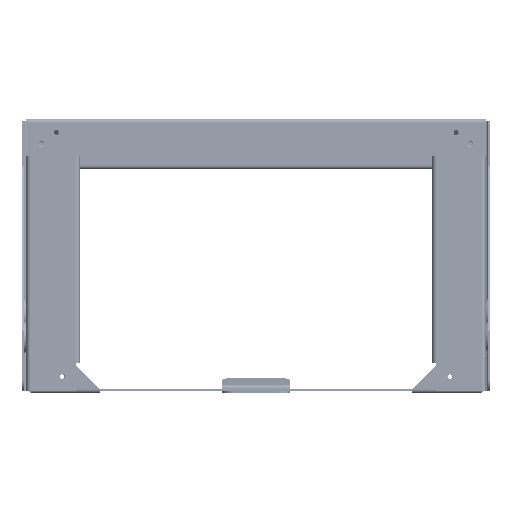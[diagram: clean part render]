
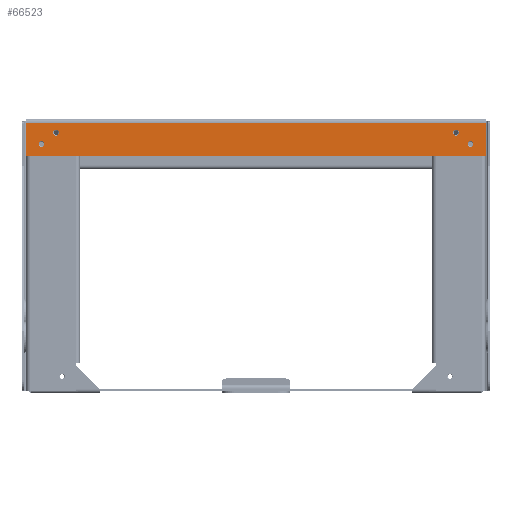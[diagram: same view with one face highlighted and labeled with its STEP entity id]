
A CAD part, front view. The second image highlights one B-rep face of the part: STEP entity #66523.
In plain terms, the highlighted planar face has unit normal (0, -1, 0).
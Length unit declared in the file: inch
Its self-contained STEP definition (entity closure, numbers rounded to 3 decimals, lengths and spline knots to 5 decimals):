
#3661 = PLANE ( 'NONE',  #29699 ) ;
#3682 = CARTESIAN_POINT ( 'NONE',  ( -10.222, -1.037, 1.553 ) ) ;
#3686 = DIRECTION ( 'NONE',  ( 0., 1., 0. ) ) ;
#3687 = DIRECTION ( 'NONE',  ( 0., 0., 1. ) ) ;
#5896 = EDGE_CURVE ( 'NONE', #45047, #45205, #28272, .T. ) ;
#5903 = EDGE_CURVE ( 'NONE', #45200, #45305, #28274, .T. ) ;
#5931 = EDGE_CURVE ( 'NONE', #45031, #45078, #28279, .T. ) ;
#5947 = EDGE_CURVE ( 'NONE', #45249, #45018, #28285, .T. ) ;
#11829 = LINE ( 'NONE', #40507, #11842 ) ;
#11836 = CIRCLE ( 'NONE', #19616, 0.1325 ) ;
#11842 = VECTOR ( 'NONE', #40504, 39.37008 ) ;
#11922 = VECTOR ( 'NONE', #40326, 39.37008 ) ;
#11926 = LINE ( 'NONE', #40342, #11922 ) ;
#11946 = VECTOR ( 'NONE', #40269, 39.37008 ) ;
#11950 = LINE ( 'NONE', #40270, #11946 ) ;
#11957 = CIRCLE ( 'NONE', #19698, 0.1325 ) ;
#11971 = LINE ( 'NONE', #40240, #11972 ) ;
#11972 = VECTOR ( 'NONE', #40237, 39.37008 ) ;
#11977 = CIRCLE ( 'NONE', #19706, 0.1325 ) ;
#11992 = CIRCLE ( 'NONE', #19709, 0.1325 ) ;
#13819 = EDGE_CURVE ( 'NONE', #45018, #45249, #11836, .T. ) ;
#13829 = EDGE_CURVE ( 'NONE', #45283, #45286, #11829, .T. ) ;
#14058 = EDGE_CURVE ( 'NONE', #45301, #45247, #11926, .T. ) ;
#14131 = EDGE_CURVE ( 'NONE', #45205, #45047, #11957, .T. ) ;
#14147 = EDGE_CURVE ( 'NONE', #45247, #45283, #11950, .T. ) ;
#14182 = EDGE_CURVE ( 'NONE', #45301, #45286, #11971, .T. ) ;
#14193 = EDGE_CURVE ( 'NONE', #45305, #45200, #11977, .T. ) ;
#14236 = EDGE_CURVE ( 'NONE', #45078, #45031, #11992, .T. ) ;
#19198 = AXIS2_PLACEMENT_3D ( 'NONE', #32434, #32508, #32507 ) ;
#19208 = AXIS2_PLACEMENT_3D ( 'NONE', #32506, #32505, #32504 ) ;
#19210 = AXIS2_PLACEMENT_3D ( 'NONE', #32996, #32985, #32988 ) ;
#19212 = AXIS2_PLACEMENT_3D ( 'NONE', #32432, #32497, #32488 ) ;
#19616 = AXIS2_PLACEMENT_3D ( 'NONE', #40520, #40518, #40517 ) ;
#19698 = AXIS2_PLACEMENT_3D ( 'NONE', #40275, #40273, #40272 ) ;
#19706 = AXIS2_PLACEMENT_3D ( 'NONE', #40257, #40234, #40233 ) ;
#19709 = AXIS2_PLACEMENT_3D ( 'NONE', #40208, #40204, #40203 ) ;
#28272 = CIRCLE ( 'NONE', #19198, 0.1325 ) ;
#28274 = CIRCLE ( 'NONE', #19208, 0.1325 ) ;
#28279 = CIRCLE ( 'NONE', #19212, 0.1325 ) ;
#28285 = CIRCLE ( 'NONE', #19210, 0.1325 ) ;
#29699 = AXIS2_PLACEMENT_3D ( 'NONE', #3682, #3686, #3687 ) ;
#30991 = FACE_BOUND ( 'NONE', #58972, .T. ) ;
#30997 = FACE_OUTER_BOUND ( 'NONE', #58966, .T. ) ;
#31009 = FACE_BOUND ( 'NONE', #58969, .T. ) ;
#31016 = FACE_BOUND ( 'NONE', #58968, .T. ) ;
#31021 = FACE_BOUND ( 'NONE', #58967, .T. ) ;
#32432 = CARTESIAN_POINT ( 'NONE',  ( -8.897, -1.037, 0.533 ) ) ;
#32434 = CARTESIAN_POINT ( 'NONE',  ( 9.547, -1.037, 1.033 ) ) ;
#32488 = DIRECTION ( 'NONE',  ( 0., 0., -1. ) ) ;
#32497 = DIRECTION ( 'NONE',  ( 0., -1., 0. ) ) ;
#32504 = DIRECTION ( 'NONE',  ( 0., 0., 1. ) ) ;
#32505 = DIRECTION ( 'NONE',  ( 0., -1., 0. ) ) ;
#32506 = CARTESIAN_POINT ( 'NONE',  ( 8.897, -1.037, 0.533 ) ) ;
#32507 = DIRECTION ( 'NONE',  ( 0., 0., 1. ) ) ;
#32508 = DIRECTION ( 'NONE',  ( 0., -1., 0. ) ) ;
#32985 = DIRECTION ( 'NONE',  ( 0., -1., 0. ) ) ;
#32988 = DIRECTION ( 'NONE',  ( 0., 0., -1. ) ) ;
#32996 = CARTESIAN_POINT ( 'NONE',  ( -9.547, -1.037, 1.033 ) ) ;
#34190 = ORIENTED_EDGE ( 'NONE', *, *, #5896, .F. ) ;
#34193 = ORIENTED_EDGE ( 'NONE', *, *, #5903, .F. ) ;
#34195 = ORIENTED_EDGE ( 'NONE', *, *, #5931, .F. ) ;
#34197 = ORIENTED_EDGE ( 'NONE', *, *, #5947, .F. ) ;
#34199 = ORIENTED_EDGE ( 'NONE', *, *, #14058, .T. ) ;
#34201 = ORIENTED_EDGE ( 'NONE', *, *, #13829, .T. ) ;
#34643 = ORIENTED_EDGE ( 'NONE', *, *, #14147, .T. ) ;
#34647 = ORIENTED_EDGE ( 'NONE', *, *, #14182, .F. ) ;
#34652 = ORIENTED_EDGE ( 'NONE', *, *, #13819, .F. ) ;
#34656 = ORIENTED_EDGE ( 'NONE', *, *, #14236, .F. ) ;
#34660 = ORIENTED_EDGE ( 'NONE', *, *, #14193, .F. ) ;
#34665 = ORIENTED_EDGE ( 'NONE', *, *, #14131, .F. ) ;
#40203 = DIRECTION ( 'NONE',  ( 0., 0., -1. ) ) ;
#40204 = DIRECTION ( 'NONE',  ( 0., -1., 0. ) ) ;
#40208 = CARTESIAN_POINT ( 'NONE',  ( -8.897, -1.037, 0.533 ) ) ;
#40233 = DIRECTION ( 'NONE',  ( 0., 0., 1. ) ) ;
#40234 = DIRECTION ( 'NONE',  ( 0., -1., 0. ) ) ;
#40237 = DIRECTION ( 'NONE',  ( -1., 0., 0. ) ) ;
#40240 = CARTESIAN_POINT ( 'NONE',  ( -10.222, -1.037, 0.08 ) ) ;
#40257 = CARTESIAN_POINT ( 'NONE',  ( 8.897, -1.037, 0.533 ) ) ;
#40269 = DIRECTION ( 'NONE',  ( -1., 0., 0. ) ) ;
#40270 = CARTESIAN_POINT ( 'NONE',  ( -10.222, -1.037, 1.553 ) ) ;
#40272 = DIRECTION ( 'NONE',  ( 0., 0., 1. ) ) ;
#40273 = DIRECTION ( 'NONE',  ( 0., -1., 0. ) ) ;
#40275 = CARTESIAN_POINT ( 'NONE',  ( 9.547, -1.037, 1.033 ) ) ;
#40326 = DIRECTION ( 'NONE',  ( 0., 0., 1. ) ) ;
#40342 = CARTESIAN_POINT ( 'NONE',  ( 10.222, -1.037, 1.553 ) ) ;
#40504 = DIRECTION ( 'NONE',  ( 0., 0., -1. ) ) ;
#40507 = CARTESIAN_POINT ( 'NONE',  ( -10.222, -1.037, 1.553 ) ) ;
#40517 = DIRECTION ( 'NONE',  ( 0., 0., -1. ) ) ;
#40518 = DIRECTION ( 'NONE',  ( 0., -1., 0. ) ) ;
#40520 = CARTESIAN_POINT ( 'NONE',  ( -9.547, -1.037, 1.033 ) ) ;
#44067 = CARTESIAN_POINT ( 'NONE',  ( -9.547, -1.037, 0.9005 ) ) ;
#44080 = CARTESIAN_POINT ( 'NONE',  ( -8.897, -1.037, 0.6655 ) ) ;
#44095 = CARTESIAN_POINT ( 'NONE',  ( 9.547, -1.037, 1.1655 ) ) ;
#44121 = CARTESIAN_POINT ( 'NONE',  ( -8.897, -1.037, 0.4005 ) ) ;
#44204 = CARTESIAN_POINT ( 'NONE',  ( 8.897, -1.037, 0.6655 ) ) ;
#44208 = CARTESIAN_POINT ( 'NONE',  ( 9.547, -1.037, 0.9005 ) ) ;
#44244 = CARTESIAN_POINT ( 'NONE',  ( 10.222, -1.037, 1.553 ) ) ;
#44246 = CARTESIAN_POINT ( 'NONE',  ( -9.547, -1.037, 1.1655 ) ) ;
#44271 = CARTESIAN_POINT ( 'NONE',  ( -10.222, -1.037, 1.553 ) ) ;
#44274 = CARTESIAN_POINT ( 'NONE',  ( -10.222, -1.037, 0.08 ) ) ;
#44285 = CARTESIAN_POINT ( 'NONE',  ( 10.222, -1.037, 0.08 ) ) ;
#44288 = CARTESIAN_POINT ( 'NONE',  ( 8.897, -1.037, 0.4005 ) ) ;
#45018 = VERTEX_POINT ( 'NONE', #44067 ) ;
#45031 = VERTEX_POINT ( 'NONE', #44080 ) ;
#45047 = VERTEX_POINT ( 'NONE', #44095 ) ;
#45078 = VERTEX_POINT ( 'NONE', #44121 ) ;
#45200 = VERTEX_POINT ( 'NONE', #44204 ) ;
#45205 = VERTEX_POINT ( 'NONE', #44208 ) ;
#45247 = VERTEX_POINT ( 'NONE', #44244 ) ;
#45249 = VERTEX_POINT ( 'NONE', #44246 ) ;
#45283 = VERTEX_POINT ( 'NONE', #44271 ) ;
#45286 = VERTEX_POINT ( 'NONE', #44274 ) ;
#45301 = VERTEX_POINT ( 'NONE', #44285 ) ;
#45305 = VERTEX_POINT ( 'NONE', #44288 ) ;
#58966 = EDGE_LOOP ( 'NONE', ( #34647, #34199, #34643, #34201 ) ) ;
#58967 = EDGE_LOOP ( 'NONE', ( #34652, #34197 ) ) ;
#58968 = EDGE_LOOP ( 'NONE', ( #34656, #34195 ) ) ;
#58969 = EDGE_LOOP ( 'NONE', ( #34660, #34193 ) ) ;
#58972 = EDGE_LOOP ( 'NONE', ( #34665, #34190 ) ) ;
#66523 = ADVANCED_FACE ( 'NONE', ( #30991, #31009, #31016, #31021, #30997 ), #3661, .F. ) ;
